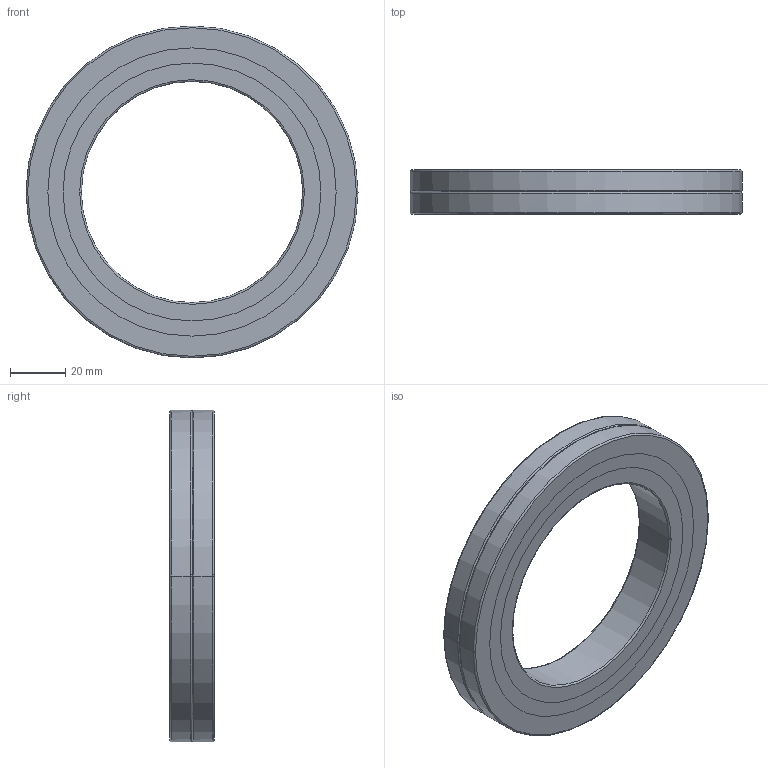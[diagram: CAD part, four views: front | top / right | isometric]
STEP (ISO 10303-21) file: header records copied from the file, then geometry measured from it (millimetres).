
FILE_DESCRIPTION(('no description'),'unknown implementation level');
FILE_NAME('CRBA08016_9.stp',' ',('HIWIN GmbH'),('CADClick - KiM GmbH - www.kimweb.de'),'unknown preprocess','ACIS','unknown authorization');
FILE_SCHEMA(('automotive_design'));
Length unit declared in the file: millimetre
Products named in the file (5): CRBA08016_1; CRBA08016_2; CRBA08016_3; CRBA08016_4; CRBA08016
Bounding box: 120 x 16 x 120 mm (x, y, z)
Volume: 78205.4 mm3; surface area: 42859.4 mm2
Topology: 5 solids, 5 shells, 54 faces, 120 edges, 76 vertices
Faces by surface type: torus 24, cylinder 20, plane 10
Entity records: 3096 total; most frequent: DIRECTION 338, STYLED_ITEM 255, PRESENTATION_STYLE_ASSIGNMENT 255, CARTESIAN_POINT 255, COLOUR_RGB 255, ORIENTED_EDGE 240, AXIS2_PLACEMENT_3D 159, EDGE_CURVE 120
